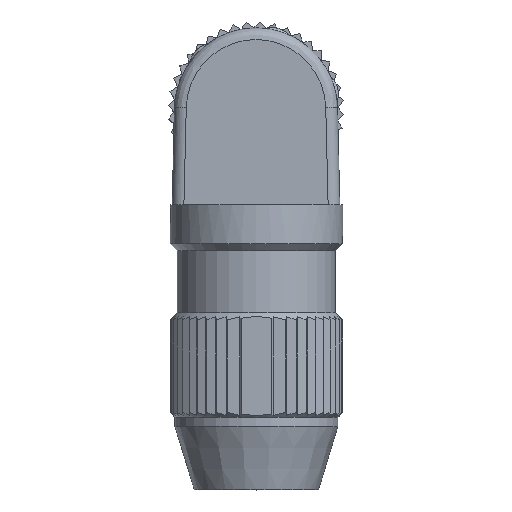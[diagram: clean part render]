
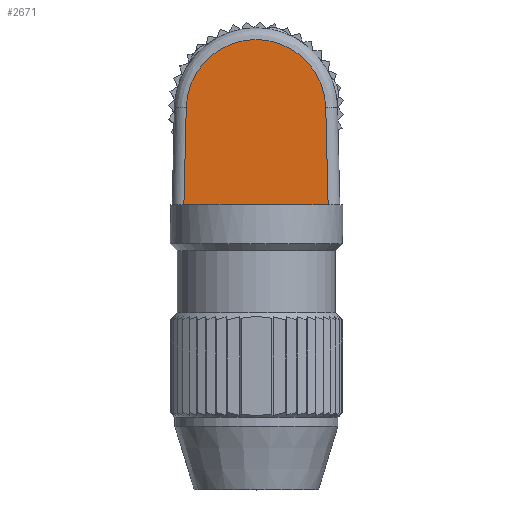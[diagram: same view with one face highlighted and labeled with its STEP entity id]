
A CAD part, top view. The second image highlights one B-rep face of the part: STEP entity #2671.
In plain terms, the highlighted planar face has unit normal (0, 0, 1).
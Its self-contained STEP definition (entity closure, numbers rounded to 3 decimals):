
#2671=ADVANCED_FACE('',(#3317),#3038,.T.);
#3038=PLANE('',#9592);
#3317=FACE_OUTER_BOUND('',#3644,.T.);
#3644=EDGE_LOOP('',(#5326,#5327,#5328,#5329,#5330,#5331));
#4176=LINE('',#11686,#4686);
#4244=LINE('',#11895,#4754);
#4245=LINE('',#11900,#4755);
#4246=LINE('',#11901,#4756);
#4247=LINE('',#11903,#4757);
#4686=VECTOR('',#10093,1.);
#4754=VECTOR('',#10243,1.);
#4755=VECTOR('',#10246,1.);
#4756=VECTOR('',#10247,1.);
#4757=VECTOR('',#10248,1.);
#5326=ORIENTED_EDGE('',*,*,#8041,.T.);
#5327=ORIENTED_EDGE('',*,*,#8042,.T.);
#5328=ORIENTED_EDGE('',*,*,#8043,.T.);
#5329=ORIENTED_EDGE('',*,*,#7955,.T.);
#5330=ORIENTED_EDGE('',*,*,#8044,.T.);
#5331=ORIENTED_EDGE('',*,*,#8045,.T.);
#7270=VERTEX_POINT('',#11684);
#7272=VERTEX_POINT('',#11687);
#7330=VERTEX_POINT('',#11896);
#7331=VERTEX_POINT('',#11897);
#7332=VERTEX_POINT('',#11899);
#7333=VERTEX_POINT('',#11902);
#7955=EDGE_CURVE('',#7272,#7270,#4176,.T.);
#8041=EDGE_CURVE('',#7330,#7331,#4244,.T.);
#8042=EDGE_CURVE('',#7331,#7332,#9005,.T.);
#8043=EDGE_CURVE('',#7332,#7272,#4245,.T.);
#8044=EDGE_CURVE('',#7270,#7333,#4246,.T.);
#8045=EDGE_CURVE('',#7333,#7330,#4247,.T.);
#9005=CIRCLE('',#9591,5.95);
#9591=AXIS2_PLACEMENT_3D('',#11898,#10244,#10245);
#9592=AXIS2_PLACEMENT_3D('',#11904,#10249,#10250);
#10093=DIRECTION('',(1.,0.,0.));
#10243=DIRECTION('',(-0.024,1.,0.));
#10244=DIRECTION('',(0.,0.,1.));
#10245=DIRECTION('',(1.,0.024,0.));
#10246=DIRECTION('',(-0.024,-1.,0.));
#10247=DIRECTION('',(1.,0.,0.));
#10248=DIRECTION('',(1.,0.,0.));
#10249=DIRECTION('',(0.,0.,1.));
#10250=DIRECTION('',(-1.,0.,0.));
#11684=CARTESIAN_POINT('',(-2.044,9.9,7.05));
#11686=CARTESIAN_POINT('',(-6.15,9.9,7.05));
#11687=CARTESIAN_POINT('',(-6.15,9.9,7.05));
#11895=CARTESIAN_POINT('',(6.15,9.9,7.05));
#11896=CARTESIAN_POINT('',(6.15,9.9,7.05));
#11897=CARTESIAN_POINT('',(5.948,18.194,7.05));
#11898=CARTESIAN_POINT('',(0.,18.05,7.05));
#11899=CARTESIAN_POINT('',(-5.948,18.194,7.05));
#11900=CARTESIAN_POINT('',(-5.948,18.194,7.05));
#11901=CARTESIAN_POINT('',(-6.15,9.9,7.05));
#11902=CARTESIAN_POINT('',(2.113,9.9,7.05));
#11903=CARTESIAN_POINT('',(-6.15,9.9,7.05));
#11904=CARTESIAN_POINT('',(7.507,25.378,7.05));
